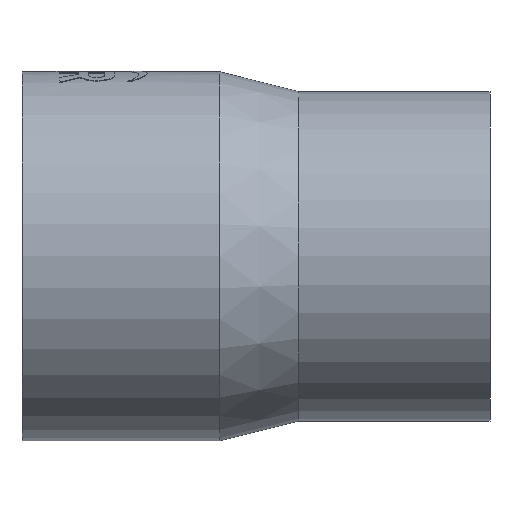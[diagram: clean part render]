
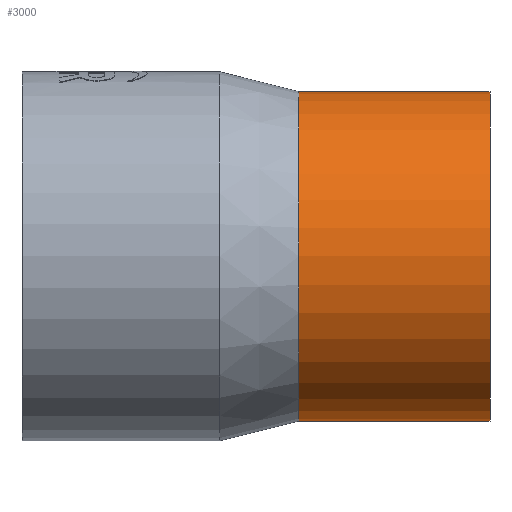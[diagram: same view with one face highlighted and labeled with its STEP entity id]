
A CAD part, front view. The second image highlights one B-rep face of the part: STEP entity #3000.
In plain terms, the highlighted cylindrical face has radius 125 mm (diameter 250 mm), a partial arc.
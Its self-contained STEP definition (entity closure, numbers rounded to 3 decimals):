
#56 = VERTEX_POINT ( 'NONE', #1147 ) ;
#83 = CARTESIAN_POINT ( 'NONE',  ( -0.3, 0., -125. ) ) ;
#203 = VECTOR ( 'NONE', #2668, 1000. ) ;
#344 = FACE_OUTER_BOUND ( 'NONE', #1687, .T. ) ;
#713 = LINE ( 'NONE', #1875, #1009 ) ;
#727 = ORIENTED_EDGE ( 'NONE', *, *, #3249, .F. ) ;
#741 = DIRECTION ( 'NONE',  ( 0., 0., 1. ) ) ;
#777 = DIRECTION ( 'NONE',  ( -1., 0., 0. ) ) ;
#999 = DIRECTION ( 'NONE',  ( 0., 0., 1. ) ) ;
#1009 = VECTOR ( 'NONE', #1580, 1000. ) ;
#1012 = DIRECTION ( 'NONE',  ( -1., 0., 0. ) ) ;
#1018 = CARTESIAN_POINT ( 'NONE',  ( 210., 0., 0. ) ) ;
#1046 = DIRECTION ( 'NONE',  ( -1., 0., 0. ) ) ;
#1049 = CYLINDRICAL_SURFACE ( 'NONE', #1144, 125. ) ;
#1144 = AXIS2_PLACEMENT_3D ( 'NONE', #2351, #1046, #1807 ) ;
#1147 = CARTESIAN_POINT ( 'NONE',  ( 355., 0., -125. ) ) ;
#1304 = VERTEX_POINT ( 'NONE', #1704 ) ;
#1388 = CIRCLE ( 'NONE', #3354, 125. ) ;
#1543 = EDGE_CURVE ( 'NONE', #2007, #3570, #1388, .T. ) ;
#1549 = CARTESIAN_POINT ( 'NONE',  ( 355., 0., 0. ) ) ;
#1580 = DIRECTION ( 'NONE',  ( -1., 0., 0. ) ) ;
#1650 = AXIS2_PLACEMENT_3D ( 'NONE', #1549, #777, #741 ) ;
#1687 = EDGE_LOOP ( 'NONE', ( #727, #2583, #1924, #3022 ) ) ;
#1704 = CARTESIAN_POINT ( 'NONE',  ( 355., 0., 125. ) ) ;
#1807 = DIRECTION ( 'NONE',  ( 0., 0., 1. ) ) ;
#1834 = EDGE_CURVE ( 'NONE', #1304, #3570, #713, .T. ) ;
#1875 = CARTESIAN_POINT ( 'NONE',  ( -0.3, 0., 125. ) ) ;
#1924 = ORIENTED_EDGE ( 'NONE', *, *, #1834, .T. ) ;
#2007 = VERTEX_POINT ( 'NONE', #2116 ) ;
#2116 = CARTESIAN_POINT ( 'NONE',  ( 210., 0., -125. ) ) ;
#2351 = CARTESIAN_POINT ( 'NONE',  ( -0.3, 0., 0. ) ) ;
#2583 = ORIENTED_EDGE ( 'NONE', *, *, #2929, .T. ) ;
#2668 = DIRECTION ( 'NONE',  ( -1., 0., 0. ) ) ;
#2863 = LINE ( 'NONE', #83, #203 ) ;
#2929 = EDGE_CURVE ( 'NONE', #56, #1304, #3004, .T. ) ;
#3000 = ADVANCED_FACE ( 'NONE', ( #344 ), #1049, .T. ) ;
#3004 = CIRCLE ( 'NONE', #1650, 125. ) ;
#3022 = ORIENTED_EDGE ( 'NONE', *, *, #1543, .F. ) ;
#3194 = CARTESIAN_POINT ( 'NONE',  ( 210., 0., 125. ) ) ;
#3249 = EDGE_CURVE ( 'NONE', #56, #2007, #2863, .T. ) ;
#3354 = AXIS2_PLACEMENT_3D ( 'NONE', #1018, #1012, #999 ) ;
#3570 = VERTEX_POINT ( 'NONE', #3194 ) ;
